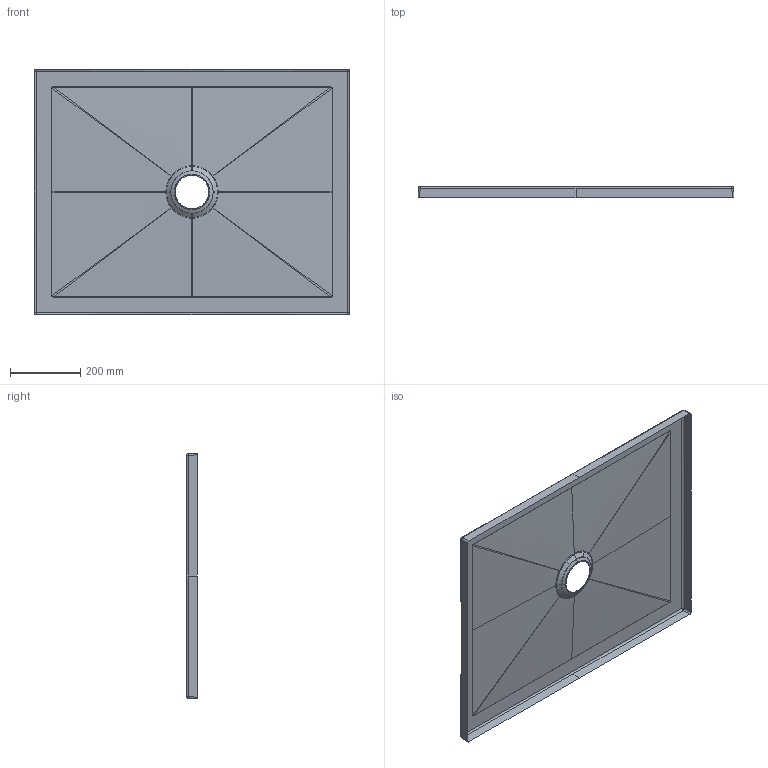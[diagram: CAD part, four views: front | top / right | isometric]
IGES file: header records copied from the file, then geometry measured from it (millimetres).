
Start section: START RECORD GO HERE.
Global section: file name: 1040_PD 90 X 70 H3 LISCIO.igs; native system: DASSAULT SYSTEMES CATIA V5 R19 - www.3ds.com; preprocessor: CATIA Version 5 Release 19 SP 5 ; author: gioge; organization: LAPTOP-G94B6G74; date: 20200630.152659; units: millimetre
Bounding box: 900 x 30.5 x 700 mm (x, y, z)
Surface area: 712191.7 mm2 (no closed solid volume)
Topology: 0 solids, 0 shells, 82 faces, 372 edges, 368 vertices
Faces by surface type: bspline 56, revolution 24, plane 2
